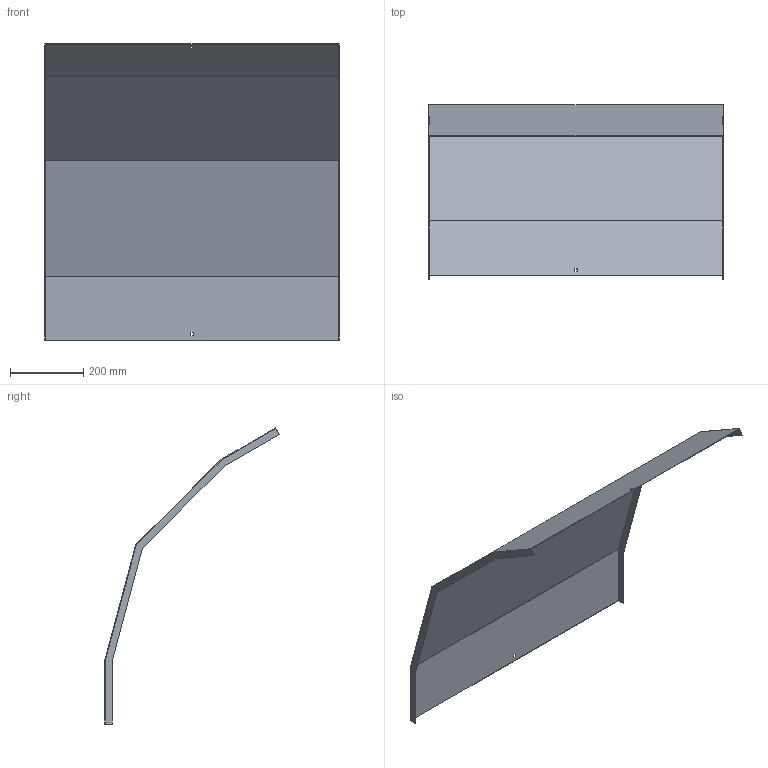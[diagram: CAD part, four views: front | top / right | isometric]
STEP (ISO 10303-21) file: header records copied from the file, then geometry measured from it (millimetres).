
FILE_DESCRIPTION (( 'STEP AP214' ), '1' );
FILE_NAME ('41N5F800.step', '2025-02-21T14:25:28', ( '' ), ( '' ), 'SwSTEP 2.0', 'SolidWorks 2023', '' );
FILE_SCHEMA (( 'AUTOMOTIVE_DESIGN' ));
Length unit declared in the file: millimetre
Products named in the file (1): 41N5F800
Bounding box: 803 x 475.35 x 806.02 mm (x, y, z)
Volume: 1257285.9 mm3; surface area: 1681930.7 mm2
Topology: 1 solids, 1 shells, 30 faces, 84 edges, 56 vertices
Faces by surface type: plane 30
Entity records: 979 total; most frequent: CARTESIAN_POINT 171, ORIENTED_EDGE 168, DIRECTION 146, VECTOR 84, EDGE_CURVE 84, LINE 84, VERTEX_POINT 56, EDGE_LOOP 34
